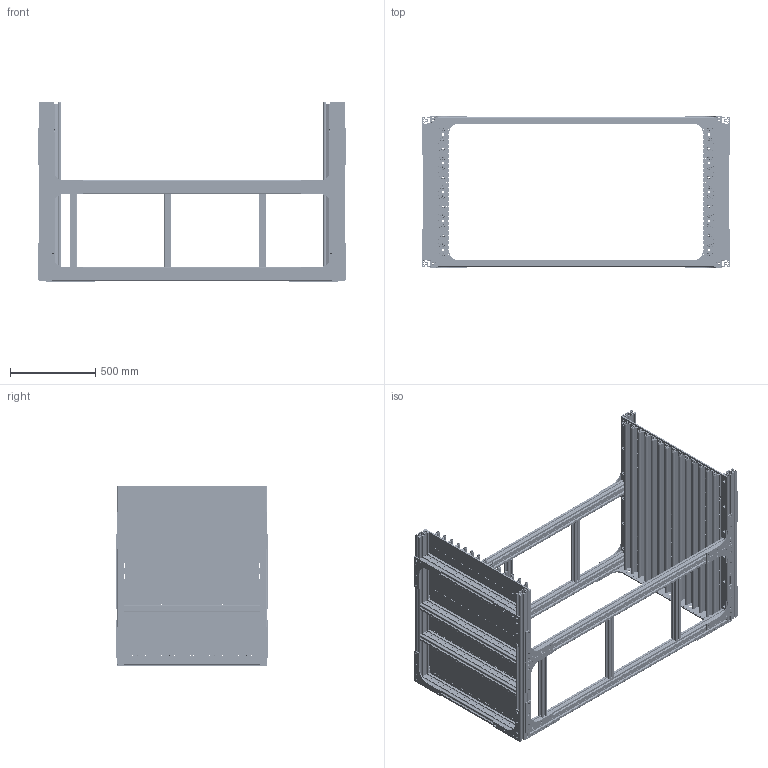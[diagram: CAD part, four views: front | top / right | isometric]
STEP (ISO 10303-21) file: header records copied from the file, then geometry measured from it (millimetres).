
FILE_DESCRIPTION(/* description */ (''),/* implementation_level */ '2;1');
FILE_NAME(/* name */ '191230_RackMainParts.stp',/* time_stamp */ '2019-12-30T14:23:39+01:00',/* author */ (''),/* organization */ (''),/* preprocessor_version */ 'ST-DEVELOPER v16.7',/* originating_system */ 'SIEMENS PLM Software NX 12.0',/* authorisation */ '');
FILE_SCHEMA (('AUTOMOTIVE_DESIGN { 1 0 10303 214 3 1 1 1 }'));
Products named in the file (1): bmas14C457FFyyru
Bounding box: 1812 x 890 x 1058 mm (x, y, z)
Volume: 53221169.4 mm3; surface area: 27736727.3 mm2
Topology: 74 solids, 74 shells, 7518 faces, 22558 edges, 15420 vertices
Faces by surface type: plane 4960, cylinder 2502, cone 56
Full cylindrical faces by diameter (mm): 4.2 x54, 5 x432, 6.5 x54, 6.6 x560, 6.8 x8, 8.2 x140, 8.5 x30, 11 x60, 12 x28, 13 x4, 15 x18, 18 x140, 19 x30, 21 x28, 30 x18
Entity records: 242543 total; most frequent: CARTESIAN_POINT 41634, DIRECTION 40106, ORIENTED_EDGE 39340, EDGE_CURVE 19670, LINE 14218, VECTOR 14218, VERTEX_POINT 14192, AXIS2_PLACEMENT_3D 12944
